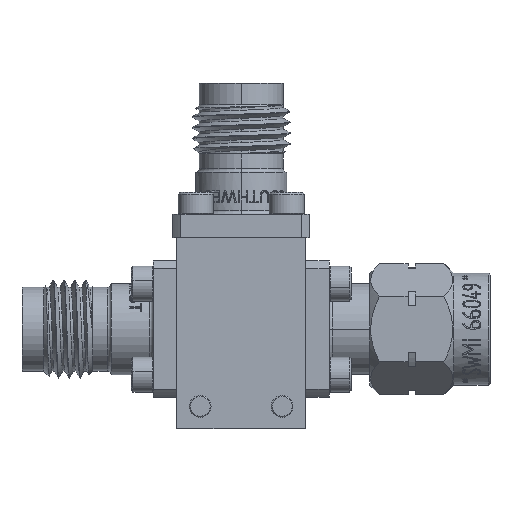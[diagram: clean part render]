
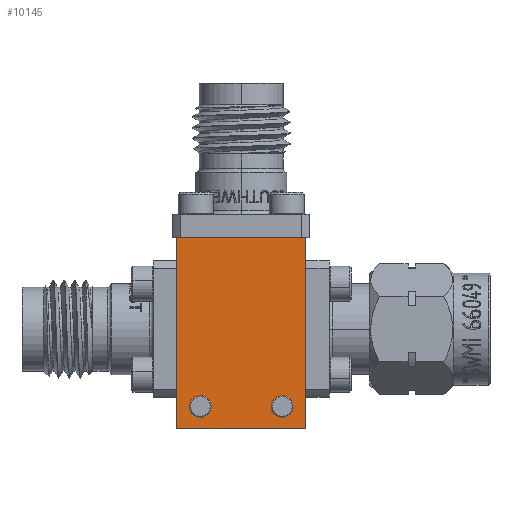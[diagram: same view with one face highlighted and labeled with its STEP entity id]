
A CAD part, front view. The second image highlights one B-rep face of the part: STEP entity #10145.
In plain terms, the highlighted planar face has unit normal (0, -1, 0).
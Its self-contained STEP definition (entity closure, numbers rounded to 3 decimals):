
#1234 = FACE_BOUND ( 'NONE', #18112, .T. ) ;
#1623 = EDGE_CURVE ( 'NONE', #2523, #21602, #9619, .T. ) ;
#2000 = ORIENTED_EDGE ( 'NONE', *, *, #17990, .T. ) ;
#2325 = DIRECTION ( 'NONE',  ( 1., 0., 0. ) ) ;
#2523 = VERTEX_POINT ( 'NONE', #4108 ) ;
#3486 = CARTESIAN_POINT ( 'NONE',  ( 0., -10.16, -13.335 ) ) ;
#3703 = CIRCLE ( 'NONE', #5797, 0.756 ) ;
#3780 = FACE_OUTER_BOUND ( 'NONE', #27313, .T. ) ;
#4108 = CARTESIAN_POINT ( 'NONE',  ( 1.638, -10.16, -12.516 ) ) ;
#5797 = AXIS2_PLACEMENT_3D ( 'NONE', #30916, #8795, #18689 ) ;
#6204 = DIRECTION ( 'NONE',  ( 0., 0., 1. ) ) ;
#6759 = VECTOR ( 'NONE', #15928, 1000. ) ;
#6892 = ORIENTED_EDGE ( 'NONE', *, *, #7491, .T. ) ;
#7491 = EDGE_CURVE ( 'NONE', #17841, #31788, #9281, .T. ) ;
#8523 = CARTESIAN_POINT ( 'NONE',  ( 7.353, -10.16, -11.76 ) ) ;
#8551 = CARTESIAN_POINT ( 'NONE',  ( 1.638, -10.16, -11.76 ) ) ;
#8581 = CARTESIAN_POINT ( 'NONE',  ( 0., -10.16, 0. ) ) ;
#8795 = DIRECTION ( 'NONE',  ( 0., 1., 0. ) ) ;
#9281 = LINE ( 'NONE', #14439, #15431 ) ;
#9619 = CIRCLE ( 'NONE', #26172, 0.756 ) ;
#9781 = ORIENTED_EDGE ( 'NONE', *, *, #1623, .T. ) ;
#10127 = ORIENTED_EDGE ( 'NONE', *, *, #17648, .T. ) ;
#10145 = ADVANCED_FACE ( 'NONE', ( #1234, #10976, #3780 ), #20853, .F. ) ;
#10465 = DIRECTION ( 'NONE',  ( 0., 0., -1. ) ) ;
#10477 = CARTESIAN_POINT ( 'NONE',  ( 1.638, -10.16, -11.005 ) ) ;
#10929 = CARTESIAN_POINT ( 'NONE',  ( 0., -10.16, 0. ) ) ;
#10976 = FACE_BOUND ( 'NONE', #21145, .T. ) ;
#10979 = AXIS2_PLACEMENT_3D ( 'NONE', #8523, #20488, #20343 ) ;
#11419 = AXIS2_PLACEMENT_3D ( 'NONE', #18448, #15981, #15667 ) ;
#12945 = CIRCLE ( 'NONE', #11419, 0.756 ) ;
#13602 = EDGE_CURVE ( 'NONE', #23942, #20021, #26658, .T. ) ;
#14267 = VECTOR ( 'NONE', #2325, 1000. ) ;
#14439 = CARTESIAN_POINT ( 'NONE',  ( 0., -10.16, -13.335 ) ) ;
#14608 = ORIENTED_EDGE ( 'NONE', *, *, #25329, .T. ) ;
#15148 = LINE ( 'NONE', #17286, #25889 ) ;
#15431 = VECTOR ( 'NONE', #19351, 1000. ) ;
#15667 = DIRECTION ( 'NONE',  ( 0., 0., 1. ) ) ;
#15928 = DIRECTION ( 'NONE',  ( 0., 0., -1. ) ) ;
#15981 = DIRECTION ( 'NONE',  ( 0., 1., 0. ) ) ;
#17286 = CARTESIAN_POINT ( 'NONE',  ( 0., -10.16, 0. ) ) ;
#17384 = EDGE_CURVE ( 'NONE', #20021, #31788, #20944, .T. ) ;
#17648 = EDGE_CURVE ( 'NONE', #21602, #2523, #3703, .T. ) ;
#17841 = VERTEX_POINT ( 'NONE', #3486 ) ;
#17990 = EDGE_CURVE ( 'NONE', #20330, #20906, #12945, .T. ) ;
#18077 = ORIENTED_EDGE ( 'NONE', *, *, #27280, .T. ) ;
#18112 = EDGE_LOOP ( 'NONE', ( #10127, #9781 ) ) ;
#18448 = CARTESIAN_POINT ( 'NONE',  ( 7.353, -10.16, -11.76 ) ) ;
#18461 = DIRECTION ( 'NONE',  ( 0., 1., 0. ) ) ;
#18689 = DIRECTION ( 'NONE',  ( 0., 0., 1. ) ) ;
#19351 = DIRECTION ( 'NONE',  ( 1., 0., 0. ) ) ;
#20021 = VERTEX_POINT ( 'NONE', #28450 ) ;
#20330 = VERTEX_POINT ( 'NONE', #26817 ) ;
#20343 = DIRECTION ( 'NONE',  ( 0., 0., 1. ) ) ;
#20370 = DIRECTION ( 'NONE',  ( 0., 0., 1. ) ) ;
#20488 = DIRECTION ( 'NONE',  ( 0., 1., 0. ) ) ;
#20809 = CIRCLE ( 'NONE', #10979, 0.756 ) ;
#20853 = PLANE ( 'NONE',  #24359 ) ;
#20906 = VERTEX_POINT ( 'NONE', #30164 ) ;
#20944 = LINE ( 'NONE', #25666, #6759 ) ;
#21145 = EDGE_LOOP ( 'NONE', ( #14608, #2000 ) ) ;
#21602 = VERTEX_POINT ( 'NONE', #10477 ) ;
#22559 = CARTESIAN_POINT ( 'NONE',  ( 8.992, -10.16, -13.335 ) ) ;
#23942 = VERTEX_POINT ( 'NONE', #10929 ) ;
#24359 = AXIS2_PLACEMENT_3D ( 'NONE', #8581, #18461, #6204 ) ;
#25329 = EDGE_CURVE ( 'NONE', #20906, #20330, #20809, .T. ) ;
#25545 = DIRECTION ( 'NONE',  ( 0., 1., 0. ) ) ;
#25666 = CARTESIAN_POINT ( 'NONE',  ( 8.992, -10.16, 0. ) ) ;
#25889 = VECTOR ( 'NONE', #10465, 1000. ) ;
#26172 = AXIS2_PLACEMENT_3D ( 'NONE', #8551, #25545, #20370 ) ;
#26500 = ORIENTED_EDGE ( 'NONE', *, *, #13602, .F. ) ;
#26658 = LINE ( 'NONE', #31809, #14267 ) ;
#26817 = CARTESIAN_POINT ( 'NONE',  ( 7.353, -10.16, -12.516 ) ) ;
#27280 = EDGE_CURVE ( 'NONE', #23942, #17841, #15148, .T. ) ;
#27313 = EDGE_LOOP ( 'NONE', ( #26500, #18077, #6892, #30123 ) ) ;
#28450 = CARTESIAN_POINT ( 'NONE',  ( 8.992, -10.16, 0. ) ) ;
#30123 = ORIENTED_EDGE ( 'NONE', *, *, #17384, .F. ) ;
#30164 = CARTESIAN_POINT ( 'NONE',  ( 7.353, -10.16, -11.005 ) ) ;
#30916 = CARTESIAN_POINT ( 'NONE',  ( 1.638, -10.16, -11.76 ) ) ;
#31788 = VERTEX_POINT ( 'NONE', #22559 ) ;
#31809 = CARTESIAN_POINT ( 'NONE',  ( 0., -10.16, 0. ) ) ;
